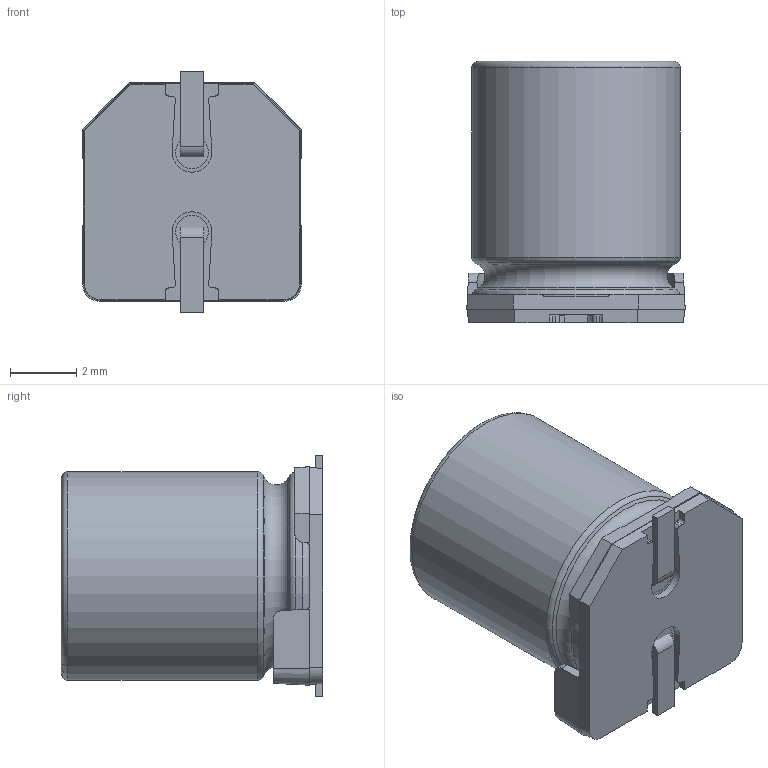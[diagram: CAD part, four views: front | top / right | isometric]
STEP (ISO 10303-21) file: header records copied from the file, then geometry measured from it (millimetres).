
FILE_DESCRIPTION (( 'STEP AP214' ), '1' );
FILE_NAME ('C8.STEP', '2019-07-09T23:55:54', ( '全社標準PC（ver1803）' ), ( 'パナソニック株式会社' ), 'SwSTEP 2.0', 'SolidWorks 2019', '' );
FILE_SCHEMA (( 'AUTOMOTIVE_DESIGN' ));
Length unit declared in the file: millimetre
Products named in the file (1): C8
Bounding box: 6.6 x 7.9 x 7.3 mm (x, y, z)
Surface area: 311.1 mm2 (no closed solid volume)
Topology: 0 solids, 6 shells, 101 faces, 292 edges, 198 vertices
Faces by surface type: plane 58, cylinder 32, cone 6, torus 5
Full cylindrical faces by diameter (mm): 6.25 x1, 6.3 x1
Entity records: 4491 total; most frequent: CARTESIAN_POINT 797, ORIENTED_EDGE 537, DIRECTION 501, EDGE_CURVE 282, VERTEX_POINT 197, VECTOR 183, LINE 183, AXIS2_PLACEMENT_3D 159
